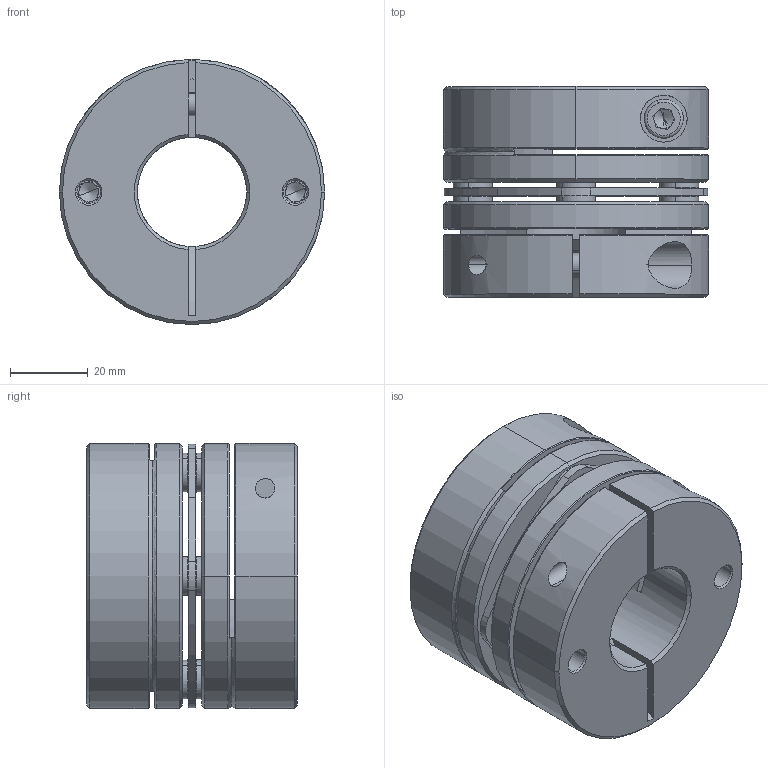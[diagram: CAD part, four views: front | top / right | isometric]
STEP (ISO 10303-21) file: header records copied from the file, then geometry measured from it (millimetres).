
FILE_DESCRIPTION (( 'STEP AP203' ), '1' );
FILE_NAME ('LD1-D68-28-28.STEP', '2021-10-29T07:09:27', ( '' ), ( '' ), 'SwSTEP 2.0', 'SolidWorks 2018', '' );
FILE_SCHEMA (( 'CONFIG_CONTROL_DESIGN' ));
Length unit declared in the file: millimetre
Products named in the file (2): LD1-D68-28-28; 錨璃14^LD1-D68
Assembly tree (1 placements, depth 2):
  LD1-D68-28-28
    錨璃14^LD1-D68
Bounding box: 68 x 54 x 68 mm (x, y, z)
Volume: 137271.3 mm3; surface area: 45538.1 mm2
Topology: 1 solids, 15 shells, 441 faces, 1047 edges, 642 vertices
Faces by surface type: cylinder 161, plane 136, cone 122, torus 22
Entity records: 13321 total; most frequent: CARTESIAN_POINT 2590, DIRECTION 2405, ORIENTED_EDGE 2062, EDGE_CURVE 1031, AXIS2_PLACEMENT_3D 977, VERTEX_POINT 642, CIRCLE 532, EDGE_LOOP 521
